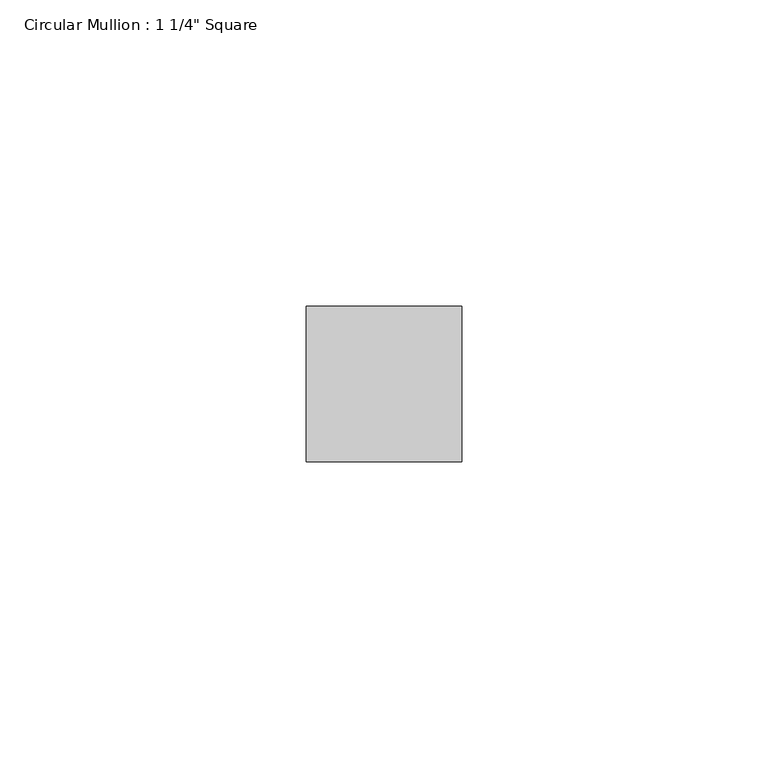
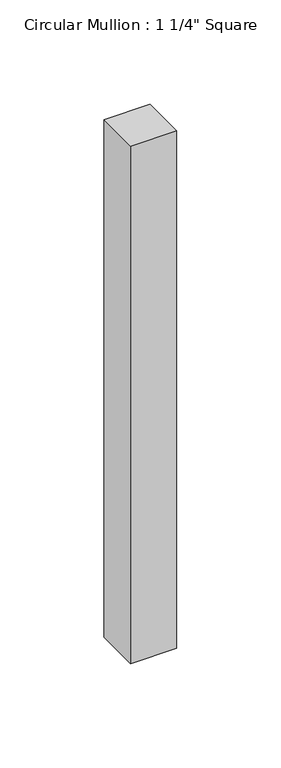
"""IFC4 building model written with IfcOpenShell, lengths in millimetres: member geometry."""

from ifc_helpers import new_model, si_unit, frame, origin, place, context, project, spatial, polyline, outline, extrude, source, transform, mapped, element, save


def member_8861c038(model_context):
    return source(origin(), model_context, "Body", "SweptSolid", [
        extrude(outline(polyline([(0.0, 12.7), (0.0, -12.7), (-25.4, -12.7), (-25.4, 12.7), (0.0, 12.7)])), frame((0.0, 0.0, -302.4123997), z_axis=(0.0, 0.0, 1.0), x_axis=(1.0, 0.0, 0.0)), (0.0, 0.0, 1.0), 302.4123997),
    ])


if __name__ == "__main__":
    model = new_model("IFC4")
    model_context = context("Model", 3, world=origin())
    ifc_project = project(units=[si_unit("LENGTHUNIT", "METRE", prefix="MILLI")], contexts=[model_context])
    site = spatial("IfcSite", under=ifc_project)
    building = spatial("IfcBuilding", under=site)
    placement = place(None, origin())
    member_shape = member_8861c038(model_context)
    element("IfcMember", 1, ObjectType="Circular Mullion : 1 1/4\" Square", at=placement, inside=building, context=model_context, shape_type="MappedRepresentation", body=[
        mapped(member_shape, transform((0.0, 0.0, 0.0), x_axis=(1.0, 0.0, 0.0), y_axis=(0.0, 1.0, 0.0), z_axis=(0.0, 0.0, 1.0))),
    ])
    save(model, "model.ifc")
